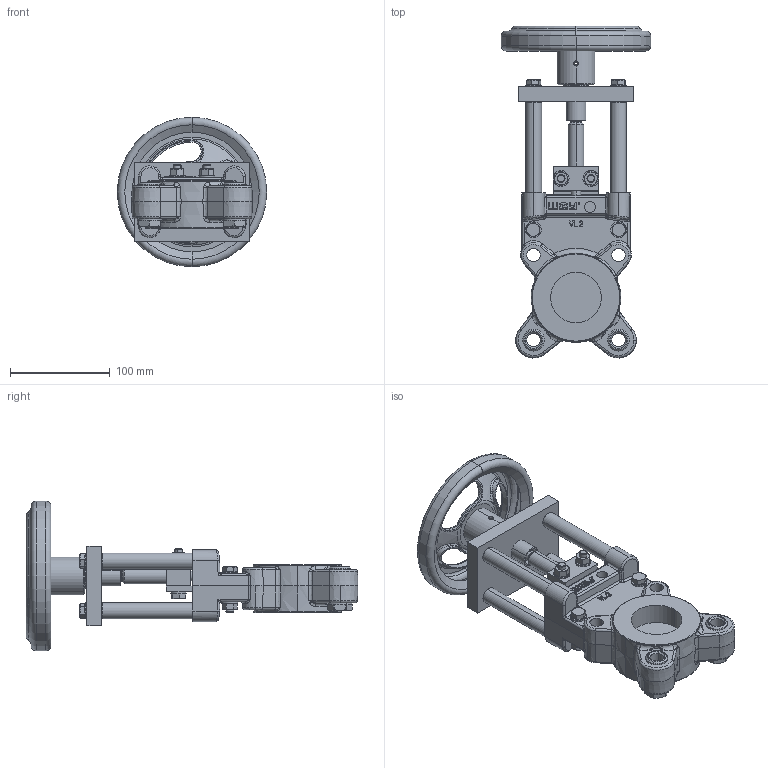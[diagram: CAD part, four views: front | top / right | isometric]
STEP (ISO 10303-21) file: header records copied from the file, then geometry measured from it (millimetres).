
FILE_DESCRIPTION (( 'STEP AP214' ), '1' );
FILE_NAME ('VLA DN 0050.STEP', '2022-09-20T06:55:09', ( '' ), ( '' ), 'SwSTEP 2.0', 'SolidWorks 2021', '' );
FILE_SCHEMA (( 'AUTOMOTIVE_DESIGN' ));
Length unit declared in the file: millimetre
Products named in the file (1): VLA DN 0050
Bounding box: 150 x 333.13 x 150 mm (x, y, z)
Volume: 934164.5 mm3; surface area: 222533.2 mm2
Topology: 1 solids, 22 shells, 1363 faces, 3231 edges, 1929 vertices
Faces by surface type: plane 444, cylinder 388, cone 229, bspline 206, torus 92, sphere 4
Entity records: 63059 total; most frequent: CARTESIAN_POINT 18136, ORIENTED_EDGE 6362, DIRECTION 6124, EDGE_CURVE 3181, AXIS2_PLACEMENT_3D 2457, VERTEX_POINT 1929, EDGE_LOOP 1484, UNCERTAINTY_MEASURE_WITH_UNIT 1364
